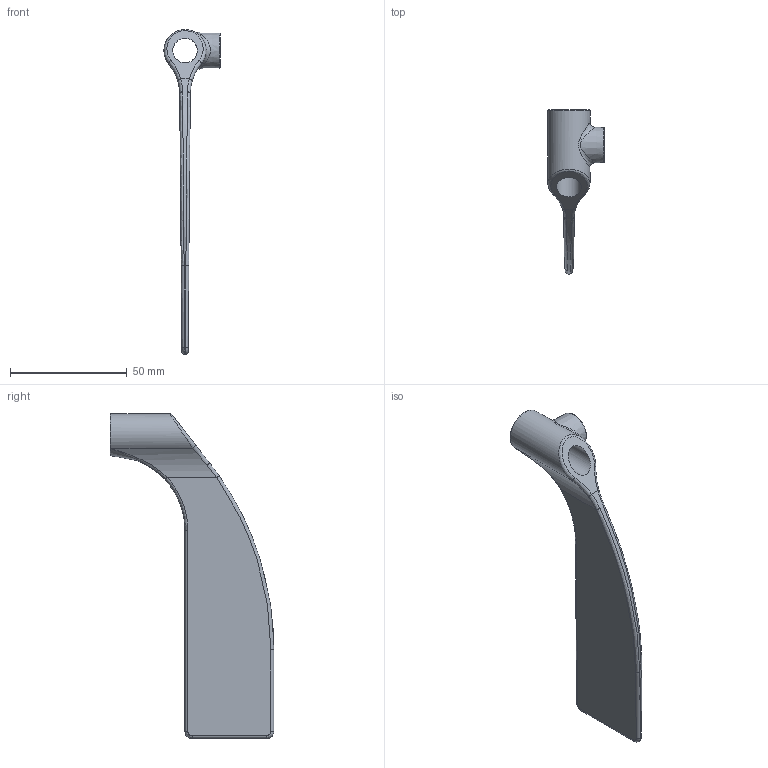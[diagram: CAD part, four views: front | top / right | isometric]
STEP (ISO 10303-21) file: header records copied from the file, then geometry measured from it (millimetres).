
FILE_DESCRIPTION(/* description */ ('ELICA COMPLETA PLASTICA - 1 PALA - G1 ¼'),/* implementation_level */ '2;1');
FILE_NAME(/* name */ 'AC19.stp',/* time_stamp */ '2024-03-22T11:10:17+01:00',/* author */ ('filippo.guidetti'),/* organization */ (''),/* preprocessor_version */ 'ST-DEVELOPER v20',/* originating_system */ 'Autodesk Inventor 2024',/* authorisation */ '');
FILE_SCHEMA (('AUTOMOTIVE_DESIGN { 1 0 10303 214 3 1 1 }'));
Length unit declared in the file: millimetre
Products named in the file (1): 0404_042_8
Bounding box: 24 x 70 x 139 mm (x, y, z)
Volume: 21006.2 mm3; surface area: 12426.5 mm2
Topology: 1 solids, 1 shells, 53 faces, 122 edges, 72 vertices
Faces by surface type: bspline 19, cylinder 14, plane 9, torus 8, cone 3
Full cylindrical faces by diameter (mm): 4.8 x1, 10.5 x1
Entity records: 2213 total; most frequent: CARTESIAN_POINT 1010, ORIENTED_EDGE 244, DIRECTION 240, EDGE_CURVE 122, AXIS2_PLACEMENT_3D 106, VERTEX_POINT 72, EDGE_LOOP 58, FACE_OUTER_BOUND 53
